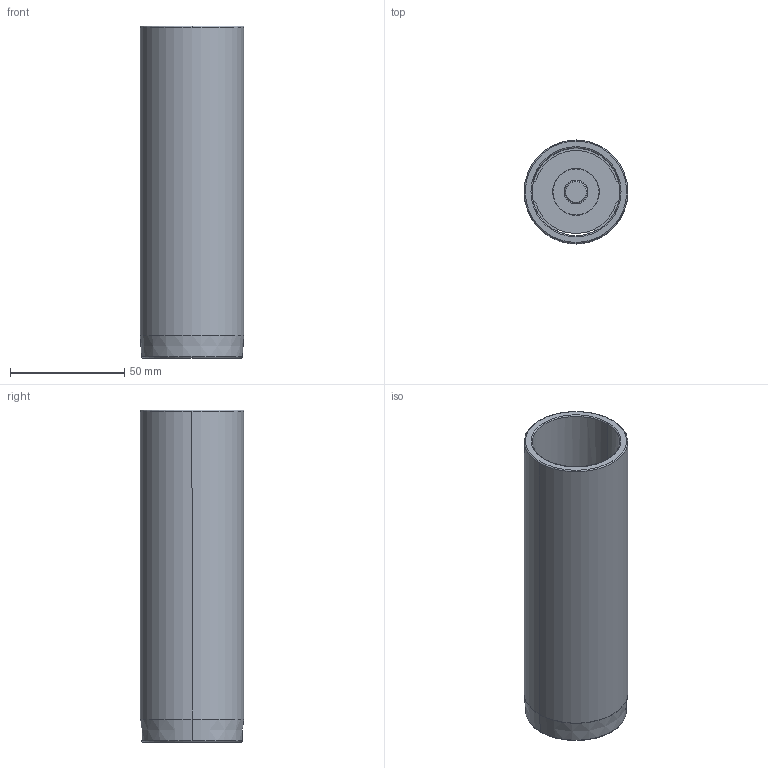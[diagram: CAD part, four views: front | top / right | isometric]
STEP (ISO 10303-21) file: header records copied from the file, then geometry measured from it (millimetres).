
FILE_DESCRIPTION((''),'2;1');
FILE_NAME('C12_038_145.stp','2009-01-28T11:31:07',(''),(''),'Mechanical Desktop 2009','Mechanical Desktop 2009',', , ');
FILE_SCHEMA(('CONFIG_CONTROL_DESIGN'));
Length unit declared in the file: millimetre
Products named in the file (2): Product; blmdl1
Assembly tree (1 placements, depth 2):
  Product
    blmdl1
Bounding box: 45.25 x 45.25 x 145 mm (x, y, z)
Volume: 69417.9 mm3; surface area: 45115.5 mm2
Topology: 5 solids, 5 shells, 79 faces, 200 edges, 134 vertices
Faces by surface type: cylinder 34, plane 29, torus 10, cone 6
Entity records: 2585 total; most frequent: DIRECTION 480, CARTESIAN_POINT 435, ORIENTED_EDGE 400, AXIS2_PLACEMENT_3D 203, EDGE_CURVE 200, VERTEX_POINT 134, CIRCLE 122, EDGE_LOOP 92
